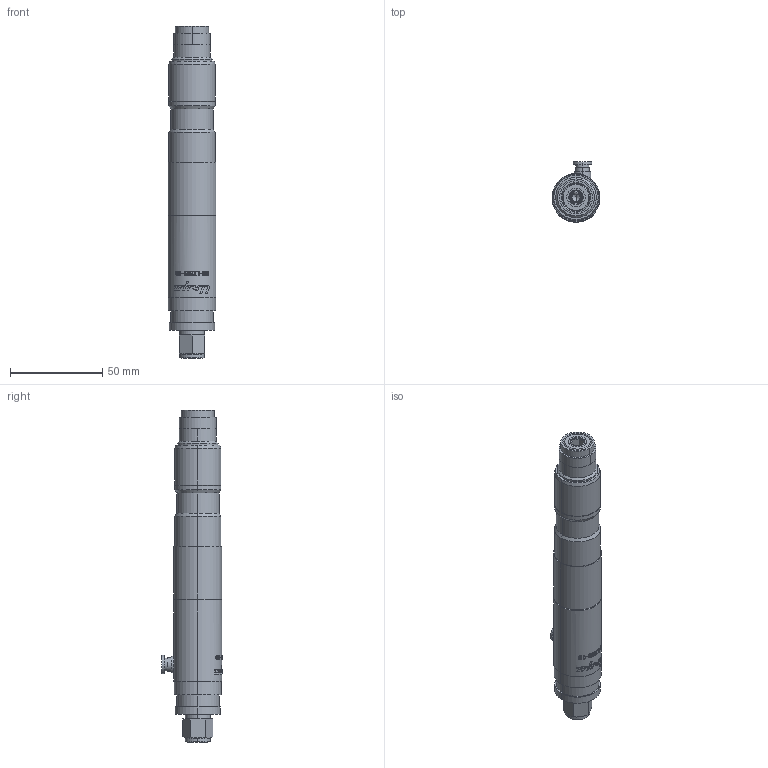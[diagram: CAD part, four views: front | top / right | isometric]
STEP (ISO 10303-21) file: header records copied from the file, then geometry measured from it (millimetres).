
FILE_DESCRIPTION (( 'STEP AP203' ), '1' );
FILE_NAME ('US-LT20B-18.STEP', '2008-07-30T05:02:21', ( '上村　洋司' ), ( '瓜生製作株式会社' ), 'SwSTEP 2.0', 'SolidWorks 2003240', '' );
FILE_SCHEMA (( 'CONFIG_CONTROL_DESIGN' ));
Length unit declared in the file: millimetre
Products named in the file (6): 4705677_US-LT20B-10_蹬怮椔; 8930551_US-LT20B-10_蹬怮椔; US-LT20B-18; 4700258_US-LT20B-18_蹬怮椔; 4703194_US-LT20B-10_蹬怮椔; 9810020_US-LT20B-10_蹬怮椔
Assembly tree (5 placements, depth 2):
  US-LT20B-18
    9810020_US-LT20B-10_蹬怮椔
    4703194_US-LT20B-10_蹬怮椔
    4705677_US-LT20B-10_蹬怮椔
    8930551_US-LT20B-10_蹬怮椔
    4700258_US-LT20B-18_蹬怮椔
Bounding box: 26 x 32.7 x 180 mm (x, y, z)
Volume: 78934.5 mm3; surface area: 20335.6 mm2
Topology: 5 solids, 5 shells, 406 faces, 1026 edges, 670 vertices
Faces by surface type: plane 139, cylinder 132, bspline 107, cone 26, sphere 2
Entity records: 18441 total; most frequent: CARTESIAN_POINT 8933, ORIENTED_EDGE 2038, DIRECTION 1503, EDGE_CURVE 1019, VERTEX_POINT 667, AXIS2_PLACEMENT_3D 541, EDGE_LOOP 454, VECTOR 421
